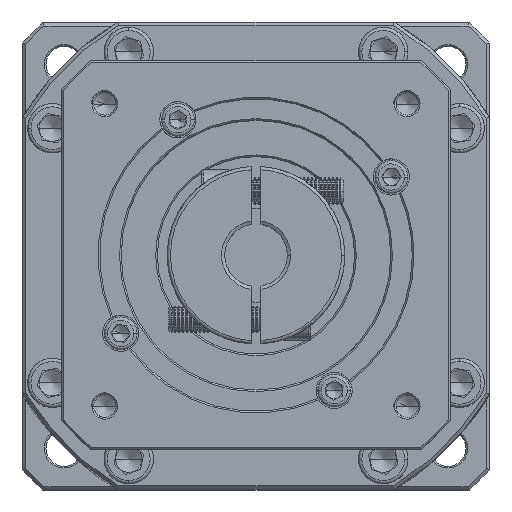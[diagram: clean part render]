
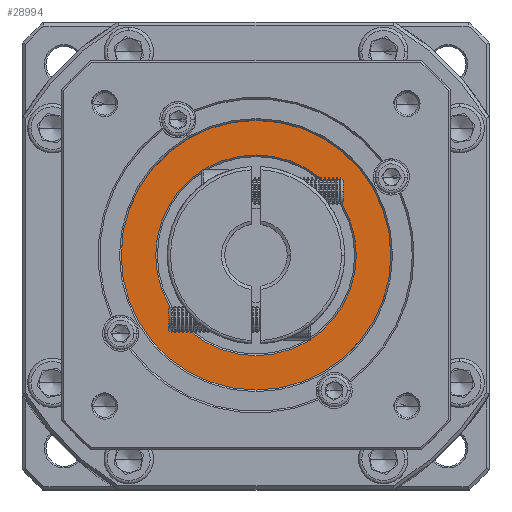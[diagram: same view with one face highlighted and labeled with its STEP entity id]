
A CAD part, top view. The second image highlights one B-rep face of the part: STEP entity #28994.
In plain terms, the highlighted planar face has unit normal (0, 0, 1).
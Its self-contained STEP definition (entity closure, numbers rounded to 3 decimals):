
#10988 = CARTESIAN_POINT ( 'NONE',  ( -112.653, 64.924, -19.651 ) ) ;
#11811 = FACE_BOUND ( 'NONE', #51193, .T. ) ;
#11866 = PLANE ( 'NONE',  #31927 ) ;
#14017 = VERTEX_POINT ( 'NONE', #88395 ) ;
#22750 = CIRCLE ( 'NONE', #23026, 41. ) ;
#22957 = CARTESIAN_POINT ( 'NONE',  ( -112.653, 64.924, -19.651 ) ) ;
#23026 = AXIS2_PLACEMENT_3D ( 'NONE', #30685, #89923, #60354 ) ;
#28803 = ORIENTED_EDGE ( 'NONE', *, *, #63279, .T. ) ;
#28994 = ADVANCED_FACE ( 'NONE', ( #72629, #11811 ), #11866, .T. ) ;
#30685 = CARTESIAN_POINT ( 'NONE',  ( -112.653, 64.924, -19.651 ) ) ;
#30921 = AXIS2_PLACEMENT_3D ( 'NONE', #33871, #105801, #123233 ) ;
#31927 = AXIS2_PLACEMENT_3D ( 'NONE', #10988, #70311, #111653 ) ;
#33871 = CARTESIAN_POINT ( 'NONE',  ( -112.653, 64.924, -19.651 ) ) ;
#36602 = CARTESIAN_POINT ( 'NONE',  ( -153.653, 64.924, -19.651 ) ) ;
#37187 = VERTEX_POINT ( 'NONE', #118277 ) ;
#38604 = DIRECTION ( 'NONE',  ( 0., 0., -1. ) ) ;
#39046 = DIRECTION ( 'NONE',  ( 0., -1., 0. ) ) ;
#44782 = DIRECTION ( 'NONE',  ( 0., -1., 0. ) ) ;
#48779 = VERTEX_POINT ( 'NONE', #36602 ) ;
#49079 = EDGE_CURVE ( 'NONE', #48779, #14017, #113453, .T. ) ;
#51193 = EDGE_LOOP ( 'NONE', ( #67956, #116252 ) ) ;
#52565 = EDGE_CURVE ( 'NONE', #37187, #112975, #52670, .T. ) ;
#52670 = CIRCLE ( 'NONE', #55497, 30.5 ) ;
#55497 = AXIS2_PLACEMENT_3D ( 'NONE', #22957, #93112, #44782 ) ;
#60354 = DIRECTION ( 'NONE',  ( 1., 0., 0. ) ) ;
#63279 = EDGE_CURVE ( 'NONE', #14017, #48779, #22750, .T. ) ;
#65418 = ORIENTED_EDGE ( 'NONE', *, *, #49079, .T. ) ;
#67956 = ORIENTED_EDGE ( 'NONE', *, *, #52565, .T. ) ;
#70311 = DIRECTION ( 'NONE',  ( 0., 0., 1. ) ) ;
#72529 = AXIS2_PLACEMENT_3D ( 'NONE', #128345, #38604, #39046 ) ;
#72629 = FACE_OUTER_BOUND ( 'NONE', #126642, .T. ) ;
#74232 = CARTESIAN_POINT ( 'NONE',  ( -112.653, 95.424, -19.651 ) ) ;
#88395 = CARTESIAN_POINT ( 'NONE',  ( -71.653, 64.924, -19.651 ) ) ;
#89923 = DIRECTION ( 'NONE',  ( 0., 0., 1. ) ) ;
#93112 = DIRECTION ( 'NONE',  ( 0., 0., -1. ) ) ;
#104482 = CIRCLE ( 'NONE', #72529, 30.5 ) ;
#105801 = DIRECTION ( 'NONE',  ( 0., 0., 1. ) ) ;
#111653 = DIRECTION ( 'NONE',  ( 1., 0., 0. ) ) ;
#112975 = VERTEX_POINT ( 'NONE', #74232 ) ;
#113453 = CIRCLE ( 'NONE', #30921, 41. ) ;
#116252 = ORIENTED_EDGE ( 'NONE', *, *, #121702, .T. ) ;
#118277 = CARTESIAN_POINT ( 'NONE',  ( -112.653, 34.424, -19.651 ) ) ;
#121702 = EDGE_CURVE ( 'NONE', #112975, #37187, #104482, .T. ) ;
#123233 = DIRECTION ( 'NONE',  ( 1., 0., 0. ) ) ;
#126642 = EDGE_LOOP ( 'NONE', ( #28803, #65418 ) ) ;
#128345 = CARTESIAN_POINT ( 'NONE',  ( -112.653, 64.924, -19.651 ) ) ;
